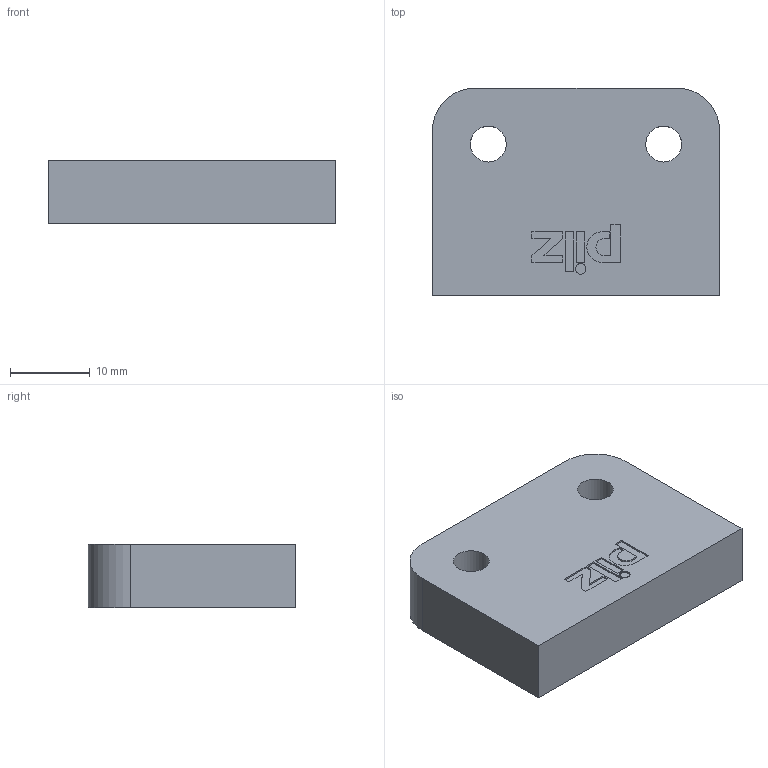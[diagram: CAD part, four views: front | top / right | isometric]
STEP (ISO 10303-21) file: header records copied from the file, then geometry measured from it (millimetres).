
FILE_DESCRIPTION((''),'2;1');
FILE_NAME('Q:\6-Änderungsanträge\3-Genehmigte Änderungsanträge\H-1340\H300496_PSEN_Distanzplatte.stp','2016-02-29T11:56:23',('pangold'),(''),'Autodesk Inventor 2013','Autodesk Inventor 2013','');
FILE_SCHEMA(('AUTOMOTIVE_DESIGN { 1 0 10303 214 1 1 1 1 }'));
Length unit declared in the file: millimetre
Products named in the file (1): H300496_PSEN_Distanzplatte
Bounding box: 36 x 26 x 8 mm (x, y, z)
Volume: 7130.6 mm3; surface area: 2980.7 mm2
Topology: 1 solids, 1 shells, 44 faces, 111 edges, 74 vertices
Faces by surface type: plane 37, cylinder 7
Full cylindrical faces by diameter (mm): 1.334 x1, 4.5 x2
Entity records: 1328 total; most frequent: CARTESIAN_POINT 227, ORIENTED_EDGE 216, DIRECTION 212, EDGE_CURVE 108, VECTOR 94, LINE 94, VERTEX_POINT 74, AXIS2_PLACEMENT_3D 59
